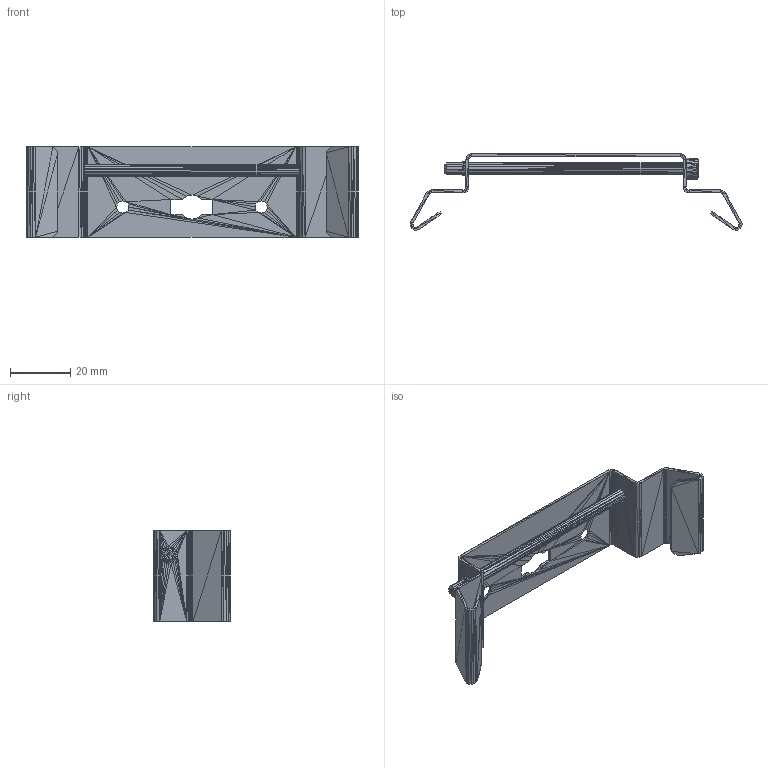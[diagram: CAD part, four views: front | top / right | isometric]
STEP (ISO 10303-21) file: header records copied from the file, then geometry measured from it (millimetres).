
FILE_DESCRIPTION((''),'2;1');
FILE_NAME('051165', '2025-12-15T14:59:44', (''), (''), 'ImageToStl.com STEP Converter','', '');
FILE_SCHEMA(('AUTOMOTIVE_DESIGN_CC2'));
Length unit declared in the file: metre
Products named in the file (1): product0
Bounding box: 110.11 x 25.4 x 30 mm (x, y, z)
Surface area: 11463.1 mm2 (no closed solid volume)
Topology: 0 solids, 1452 shells, 1452 faces, 4356 edges, 720 vertices
Faces by surface type: plane 1452
Entity records: 33412 total; most frequent: DIRECTION 7262, ORIENTED_EDGE 4356, EDGE_CURVE 4356, LINE 4356, VECTOR 4356, AXIS2_PLACEMENT_3D 1453, FACE_SURFACE 1452, PLANE 1452
